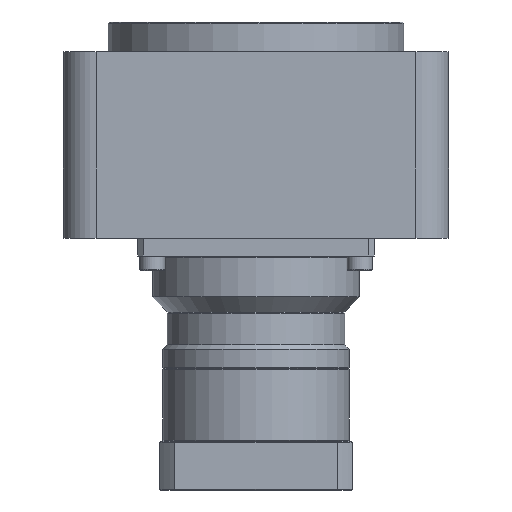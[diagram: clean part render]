
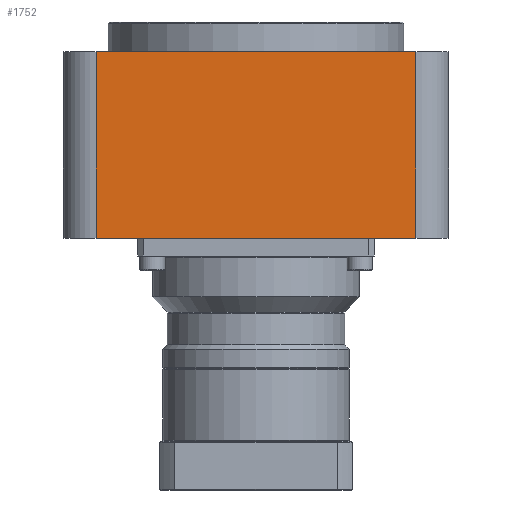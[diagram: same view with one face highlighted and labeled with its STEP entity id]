
A CAD part, left-side view. The second image highlights one B-rep face of the part: STEP entity #1752.
In plain terms, the highlighted planar face has unit normal (-1, 0, 0).
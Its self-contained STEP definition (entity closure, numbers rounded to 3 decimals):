
#1198=CARTESIAN_POINT('',(0.,11.,63.));
#1199=VERTEX_POINT('',#1198);
#1207=CARTESIAN_POINT('',(0.,11.,0.0));
#1208=VERTEX_POINT('',#1207);
#1209=CARTESIAN_POINT('',(0.,11.,63.));
#1210=DIRECTION('',(0.0,0.0,-1.0));
#1211=VECTOR('',#1210,63.);
#1212=LINE('',#1209,#1211);
#1213=EDGE_CURVE('',#1199,#1208,#1212,.T.);
#1270=CARTESIAN_POINT('',(0.,119.0,0.0));
#1271=VERTEX_POINT('',#1270);
#1272=CARTESIAN_POINT('',(0.,119.0,0.0));
#1273=DIRECTION('',(0.0,-1.0,0.0));
#1274=VECTOR('',#1273,108.0);
#1275=LINE('',#1272,#1274);
#1276=EDGE_CURVE('',#1271,#1208,#1275,.T.);
#1488=CARTESIAN_POINT('',(0.,119.0,63.));
#1489=VERTEX_POINT('',#1488);
#1499=CARTESIAN_POINT('',(0.,119.0,0.0));
#1500=DIRECTION('',(0.0,0.0,1.0));
#1501=VECTOR('',#1500,63.);
#1502=LINE('',#1499,#1501);
#1503=EDGE_CURVE('',#1271,#1489,#1502,.T.);
#1736=CARTESIAN_POINT('',(0.0,0.0,0.0));
#1737=DIRECTION('',(-1.0,0.0,0.0));
#1738=DIRECTION('',(0.0,0.0,1.0));
#1739=AXIS2_PLACEMENT_3D('',#1736,#1737,#1738);
#1740=PLANE('',#1739);
#1741=ORIENTED_EDGE('',*,*,#1213,.F.);
#1742=CARTESIAN_POINT('',(0.,11.0,63.));
#1743=DIRECTION('',(0.0,1.0,0.0));
#1744=VECTOR('',#1743,108.0);
#1745=LINE('',#1742,#1744);
#1746=EDGE_CURVE('',#1199,#1489,#1745,.T.);
#1747=ORIENTED_EDGE('',*,*,#1746,.T.);
#1748=ORIENTED_EDGE('',*,*,#1503,.F.);
#1749=ORIENTED_EDGE('',*,*,#1276,.T.);
#1750=EDGE_LOOP('',(#1741,#1747,#1748,#1749));
#1751=FACE_OUTER_BOUND('',#1750,.T.);
#1752=ADVANCED_FACE('',(#1751),#1740,.T.);
